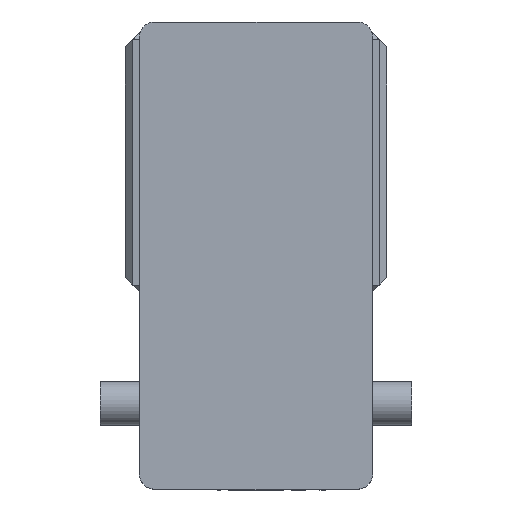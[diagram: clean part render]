
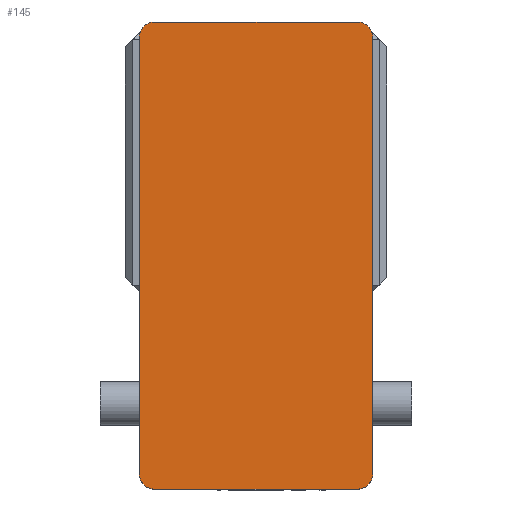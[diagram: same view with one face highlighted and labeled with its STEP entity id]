
A CAD part, left-side view. The second image highlights one B-rep face of the part: STEP entity #145.
In plain terms, the highlighted planar face has unit normal (-1, 0, 0) as drawn and (0, 0, 1) by its records, which use the part's own axes.
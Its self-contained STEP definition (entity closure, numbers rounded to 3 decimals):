
#145 = ADVANCED_FACE ( 'NONE', ( #1518 ), #9692, .T. ) ;
#187 = LINE ( 'NONE', #6891, #237 ) ;
#237 = VECTOR ( 'NONE', #6945, 1000. ) ;
#269 = ORIENTED_EDGE ( 'NONE', *, *, #10489, .T. ) ;
#720 = CIRCLE ( 'NONE', #8393, 10. ) ;
#762 = CIRCLE ( 'NONE', #7278, 10. ) ;
#764 = CIRCLE ( 'NONE', #6423, 10. ) ;
#813 = CIRCLE ( 'NONE', #9674, 10. ) ;
#845 = VECTOR ( 'NONE', #2703, 1000. ) ;
#987 = LINE ( 'NONE', #2746, #845 ) ;
#1518 = FACE_OUTER_BOUND ( 'NONE', #9725, .T. ) ;
#1851 = CARTESIAN_POINT ( 'NONE',  ( -65., 150., 105. ) ) ;
#2039 = CARTESIAN_POINT ( 'NONE',  ( 65., 150., 105. ) ) ;
#2179 = DIRECTION ( 'NONE',  ( 1., 0., 0. ) ) ;
#2191 = DIRECTION ( 'NONE',  ( 0., 0., 1. ) ) ;
#2202 = CARTESIAN_POINT ( 'NONE',  ( -65., -140., 105. ) ) ;
#2287 = DIRECTION ( 'NONE',  ( 1., 0., 0. ) ) ;
#2324 = DIRECTION ( 'NONE',  ( 0., 0., 1. ) ) ;
#2327 = CARTESIAN_POINT ( 'NONE',  ( -65., 140., 105. ) ) ;
#2415 = DIRECTION ( 'NONE',  ( 1., 0., 0. ) ) ;
#2418 = CARTESIAN_POINT ( 'NONE',  ( 75., 150., 105. ) ) ;
#2435 = DIRECTION ( 'NONE',  ( 0., 0., 1. ) ) ;
#2437 = CARTESIAN_POINT ( 'NONE',  ( 65., 140., 105. ) ) ;
#2474 = DIRECTION ( 'NONE',  ( 1., 0., 0. ) ) ;
#2488 = DIRECTION ( 'NONE',  ( 0., 1., 0. ) ) ;
#2501 = DIRECTION ( 'NONE',  ( 0., 0., 1. ) ) ;
#2510 = CARTESIAN_POINT ( 'NONE',  ( 65., -140., 105. ) ) ;
#2703 = DIRECTION ( 'NONE',  ( 1., 0., 0. ) ) ;
#2746 = CARTESIAN_POINT ( 'NONE',  ( -75., -150., 105. ) ) ;
#2906 = CARTESIAN_POINT ( 'NONE',  ( 75., 140., 105. ) ) ;
#3043 = VECTOR ( 'NONE', #4468, 1000. ) ;
#3060 = LINE ( 'NONE', #4599, #3043 ) ;
#4468 = DIRECTION ( 'NONE',  ( 0., -1., 0. ) ) ;
#4555 = CARTESIAN_POINT ( 'NONE',  ( 75., -140., 105. ) ) ;
#4599 = CARTESIAN_POINT ( 'NONE',  ( -75., 150., 105. ) ) ;
#4937 = EDGE_CURVE ( 'NONE', #11280, #11356, #987, .T. ) ;
#4956 = EDGE_CURVE ( 'NONE', #11356, #10487, #762, .T. ) ;
#4958 = EDGE_CURVE ( 'NONE', #10587, #10661, #764, .T. ) ;
#4994 = EDGE_CURVE ( 'NONE', #10699, #11091, #813, .T. ) ;
#5010 = EDGE_CURVE ( 'NONE', #11132, #11280, #720, .T. ) ;
#5206 = AXIS2_PLACEMENT_3D ( 'NONE', #9642, #9735, #9762 ) ;
#5278 = LINE ( 'NONE', #2418, #5286 ) ;
#5286 = VECTOR ( 'NONE', #2488, 1000. ) ;
#6423 = AXIS2_PLACEMENT_3D ( 'NONE', #2437, #2435, #2415 ) ;
#6891 = CARTESIAN_POINT ( 'NONE',  ( -75., 150., 105. ) ) ;
#6945 = DIRECTION ( 'NONE',  ( -1., 0., 0. ) ) ;
#7278 = AXIS2_PLACEMENT_3D ( 'NONE', #2510, #2501, #2474 ) ;
#7487 = ORIENTED_EDGE ( 'NONE', *, *, #5010, .T. ) ;
#7765 = CARTESIAN_POINT ( 'NONE',  ( 65., -150., 105. ) ) ;
#8038 = ORIENTED_EDGE ( 'NONE', *, *, #4956, .T. ) ;
#8393 = AXIS2_PLACEMENT_3D ( 'NONE', #2202, #2191, #2179 ) ;
#8650 = ORIENTED_EDGE ( 'NONE', *, *, #4937, .T. ) ;
#8822 = CARTESIAN_POINT ( 'NONE',  ( -65., -150., 105. ) ) ;
#9284 = EDGE_CURVE ( 'NONE', #10487, #10587, #5278, .T. ) ;
#9584 = ORIENTED_EDGE ( 'NONE', *, *, #11410, .T. ) ;
#9642 = CARTESIAN_POINT ( 'NONE',  ( 0., 0., 105. ) ) ;
#9674 = AXIS2_PLACEMENT_3D ( 'NONE', #2327, #2324, #2287 ) ;
#9692 = PLANE ( 'NONE',  #5206 ) ;
#9725 = EDGE_LOOP ( 'NONE', ( #8650, #8038, #9973, #11176, #9584, #10852, #269, #7487 ) ) ;
#9735 = DIRECTION ( 'NONE',  ( 0., 0., 1. ) ) ;
#9762 = DIRECTION ( 'NONE',  ( 1., 0., 0. ) ) ;
#9973 = ORIENTED_EDGE ( 'NONE', *, *, #9284, .T. ) ;
#10436 = CARTESIAN_POINT ( 'NONE',  ( -75., -140., 105. ) ) ;
#10487 = VERTEX_POINT ( 'NONE', #4555 ) ;
#10489 = EDGE_CURVE ( 'NONE', #11091, #11132, #3060, .T. ) ;
#10587 = VERTEX_POINT ( 'NONE', #2906 ) ;
#10661 = VERTEX_POINT ( 'NONE', #2039 ) ;
#10699 = VERTEX_POINT ( 'NONE', #1851 ) ;
#10852 = ORIENTED_EDGE ( 'NONE', *, *, #4994, .T. ) ;
#11021 = CARTESIAN_POINT ( 'NONE',  ( -75., 140., 105. ) ) ;
#11091 = VERTEX_POINT ( 'NONE', #11021 ) ;
#11132 = VERTEX_POINT ( 'NONE', #10436 ) ;
#11176 = ORIENTED_EDGE ( 'NONE', *, *, #4958, .T. ) ;
#11280 = VERTEX_POINT ( 'NONE', #8822 ) ;
#11356 = VERTEX_POINT ( 'NONE', #7765 ) ;
#11410 = EDGE_CURVE ( 'NONE', #10661, #10699, #187, .T. ) ;
